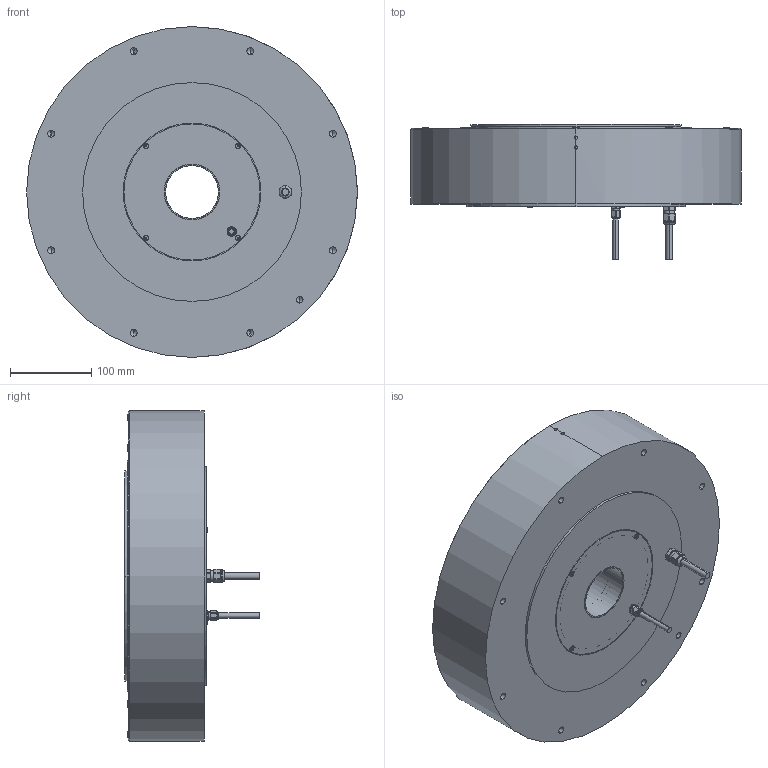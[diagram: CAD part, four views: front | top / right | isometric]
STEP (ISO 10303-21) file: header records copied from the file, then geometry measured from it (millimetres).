
FILE_DESCRIPTION (( 'STEP AP214' ), '1' );
FILE_NAME ('ND400-95-LS(ABS).step', '2025-03-10T08:07:26', ( '' ), ( '' ), 'SwSTEP 2.0', 'SolidWorks 2024', '' );
FILE_SCHEMA (( 'AUTOMOTIVE_DESIGN' ));
Length unit declared in the file: millimetre
Products named in the file (1): ND400-95-LS(ABS)
Bounding box: 408 x 166.3 x 408 mm (x, y, z)
Volume: 4442999.9 mm3; surface area: 821968.2 mm2
Topology: 32 solids, 32 shells, 1089 faces, 2715 edges, 1680 vertices
Faces by surface type: cylinder 573, plane 218, cone 206, torus 64, sphere 28
Entity records: 34577 total; most frequent: CARTESIAN_POINT 8480, DIRECTION 5572, ORIENTED_EDGE 5206, EDGE_CURVE 2603, AXIS2_PLACEMENT_3D 2281, VERTEX_POINT 1680, EDGE_LOOP 1267, CIRCLE 1191
